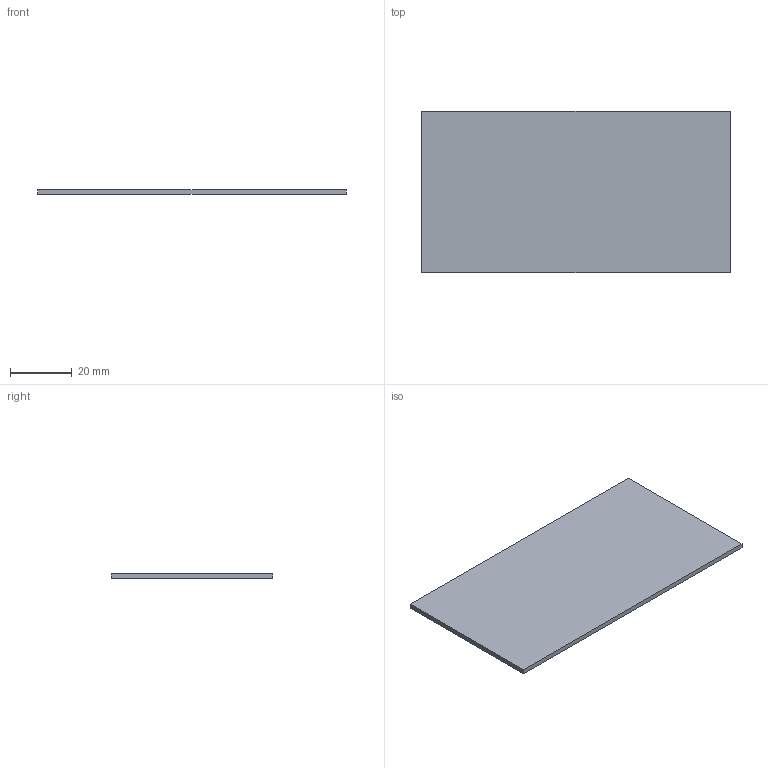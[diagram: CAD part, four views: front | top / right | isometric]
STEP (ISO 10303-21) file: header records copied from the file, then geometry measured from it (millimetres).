
FILE_DESCRIPTION(('Open CASCADE Model'),'2;1');
FILE_NAME('Open CASCADE Shape Model','2026-09-29T12:48:04',('Author'),( 'Open CASCADE'),'Open CASCADE STEP processor 7.9','Open CASCADE 7.9' ,'Unknown');
FILE_SCHEMA(('AUTOMOTIVE_DESIGN { 1 0 10303 214 1 1 1 1 }'));
Length unit declared in the file: millimetre
Products named in the file (1): Open CASCADE STEP translator 7.9 26
Bounding box: 100 x 52.2 x 1.6 mm (x, y, z)
Volume: 8352 mm3; surface area: 10927 mm2
Topology: 1 solids, 1 shells, 6 faces, 12 edges, 8 vertices
Faces by surface type: plane 6
Entity records: 322 total; most frequent: CARTESIAN_POINT 51, DIRECTION 50, LINE 36, VECTOR 36, ORIENTED_EDGE 24, PCURVE 24, DEFINITIONAL_REPRESENTATION 24, EDGE_CURVE 12
